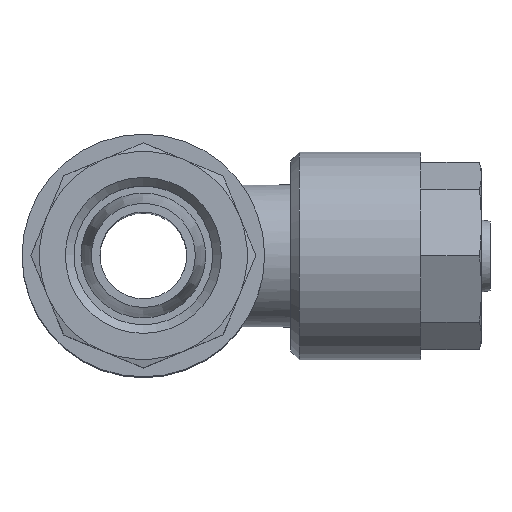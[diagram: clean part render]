
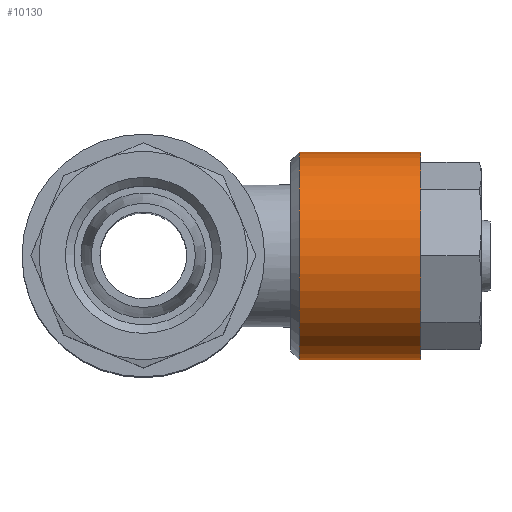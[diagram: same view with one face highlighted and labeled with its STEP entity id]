
A CAD part, top view. The second image highlights one B-rep face of the part: STEP entity #10130.
In plain terms, the highlighted cylindrical face has radius 6 mm (diameter 12 mm), a full revolution.
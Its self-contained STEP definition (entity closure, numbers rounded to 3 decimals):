
#3806=ORIENTED_EDGE('',*,*,#4392,.F.);
#3807=ORIENTED_EDGE('',*,*,#4393,.T.);
#3914=CIRCLE('',#9945,6.);
#3915=CIRCLE('',#9947,6.);
#4112=VERTEX_POINT('',#9636);
#4113=VERTEX_POINT('',#9639);
#4392=EDGE_CURVE('',#4112,#4112,#3914,.T.);
#4393=EDGE_CURVE('',#4113,#4113,#3915,.T.);
#4593=EDGE_LOOP('',(#3806));
#4594=EDGE_LOOP('',(#3807));
#4799=FACE_BOUND('',#4593,.T.);
#4800=FACE_BOUND('',#4594,.T.);
#5499=DIRECTION('',(0.,1.,0.));
#5500=DIRECTION('',(0.,0.,-6.));
#5501=DIRECTION('',(0.,1.,0.));
#5502=DIRECTION('',(1.,0.,0.));
#5503=DIRECTION('',(0.,1.,0.));
#5504=DIRECTION('',(0.,0.,6.));
#9636=CARTESIAN_POINT('',(0.,7.5,-6.));
#9637=CARTESIAN_POINT('',(0.,7.5,0.));
#9638=CARTESIAN_POINT('',(0.,0.5,0.));
#9639=CARTESIAN_POINT('',(0.,0.5,6.));
#9640=CARTESIAN_POINT('',(0.,0.5,0.));
#9945=AXIS2_PLACEMENT_3D('',#9637,#5499,#5500);
#9946=AXIS2_PLACEMENT_3D('',#9638,#5501,#5502);
#9947=AXIS2_PLACEMENT_3D('',#9640,#5503,#5504);
#9990=CYLINDRICAL_SURFACE('',#9946,6.);
#10130=ADVANCED_FACE('',(#4799,#4800),#9990,.T.);
